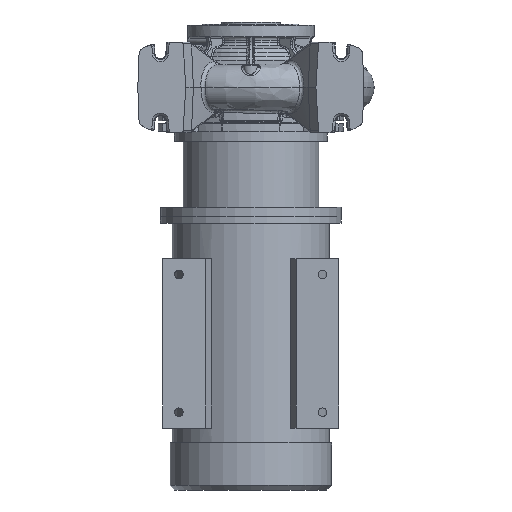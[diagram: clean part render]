
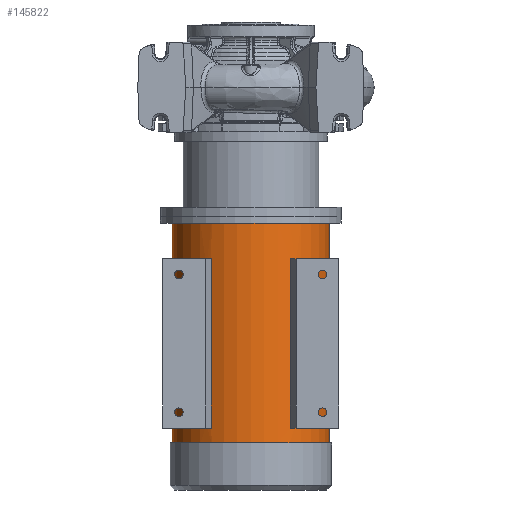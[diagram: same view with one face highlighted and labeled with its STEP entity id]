
A CAD part, front view. The second image highlights one B-rep face of the part: STEP entity #145822.
In plain terms, the highlighted cylindrical face has radius 173.5 mm (diameter 347 mm), a partial arc.
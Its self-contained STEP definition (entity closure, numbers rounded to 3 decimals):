
#1138 = EDGE_CURVE ( 'NONE', #72660, #162850, #74193, .T. ) ;
#1972 = VERTEX_POINT ( 'NONE', #120261 ) ;
#3226 = CIRCLE ( 'NONE', #144988, 173.5 ) ;
#6081 = DIRECTION ( 'NONE',  ( 0., 0., -1. ) ) ;
#6088 = CIRCLE ( 'NONE', #62175, 173.5 ) ;
#6700 = VERTEX_POINT ( 'NONE', #97734 ) ;
#7534 = VECTOR ( 'NONE', #68299, 1000. ) ;
#7914 = FACE_OUTER_BOUND ( 'NONE', #103871, .T. ) ;
#9203 = ORIENTED_EDGE ( 'NONE', *, *, #104964, .F. ) ;
#9221 = AXIS2_PLACEMENT_3D ( 'NONE', #19971, #32660, #116432 ) ;
#15252 = AXIS2_PLACEMENT_3D ( 'NONE', #77410, #105171, #127426 ) ;
#17220 = EDGE_CURVE ( 'NONE', #6700, #162850, #22133, .T. ) ;
#19183 = CIRCLE ( 'NONE', #32291, 173.5 ) ;
#19971 = CARTESIAN_POINT ( 'NONE',  ( 0., 0., -378.8 ) ) ;
#22133 = CIRCLE ( 'NONE', #15252, 173.5 ) ;
#22889 = ORIENTED_EDGE ( 'NONE', *, *, #17220, .F. ) ;
#23559 = CARTESIAN_POINT ( 'NONE',  ( -87.271, -149.953, -378.8 ) ) ;
#24618 = EDGE_CURVE ( 'NONE', #66542, #101963, #39864, .T. ) ;
#24659 = AXIS2_PLACEMENT_3D ( 'NONE', #102221, #101623, #103997 ) ;
#28593 = ORIENTED_EDGE ( 'NONE', *, *, #66082, .T. ) ;
#28682 = DIRECTION ( 'NONE',  ( 0., 0., -1. ) ) ;
#32069 = ORIENTED_EDGE ( 'NONE', *, *, #97810, .T. ) ;
#32170 = LINE ( 'NONE', #44229, #92630 ) ;
#32291 = AXIS2_PLACEMENT_3D ( 'NONE', #52496, #153714, #84455 ) ;
#32653 = DIRECTION ( 'NONE',  ( -1., 0., 0. ) ) ;
#32660 = DIRECTION ( 'NONE',  ( 0., 0., 1. ) ) ;
#34721 = DIRECTION ( 'NONE',  ( 0., 0., 1. ) ) ;
#39864 = LINE ( 'NONE', #135957, #69968 ) ;
#41528 = LINE ( 'NONE', #178827, #123787 ) ;
#41603 = VERTEX_POINT ( 'NONE', #114376 ) ;
#44229 = CARTESIAN_POINT ( 'NONE',  ( 173.5, 0., -890.8 ) ) ;
#45170 = EDGE_CURVE ( 'NONE', #99168, #6700, #32170, .T. ) ;
#49958 = VERTEX_POINT ( 'NONE', #117822 ) ;
#50993 = CYLINDRICAL_SURFACE ( 'NONE', #24659, 173.5 ) ;
#52496 = CARTESIAN_POINT ( 'NONE',  ( 0., 0., -378.8 ) ) ;
#57851 = DIRECTION ( 'NONE',  ( 0., 0., -1. ) ) ;
#58104 = DIRECTION ( 'NONE',  ( 0., 0., -1. ) ) ;
#59865 = EDGE_LOOP ( 'NONE', ( #95047, #28593, #32069, #173492 ) ) ;
#61519 = CARTESIAN_POINT ( 'NONE',  ( 0., 0., -300.8 ) ) ;
#62175 = AXIS2_PLACEMENT_3D ( 'NONE', #82404, #28682, #112450 ) ;
#62201 = VECTOR ( 'NONE', #34721, 1000. ) ;
#66082 = EDGE_CURVE ( 'NONE', #41603, #162715, #136997, .T. ) ;
#66542 = VERTEX_POINT ( 'NONE', #147083 ) ;
#68299 = DIRECTION ( 'NONE',  ( 0., 0., 1. ) ) ;
#69619 = CARTESIAN_POINT ( 'NONE',  ( 0., 0., -753.8 ) ) ;
#69968 = VECTOR ( 'NONE', #57851, 1000. ) ;
#70763 = DIRECTION ( 'NONE',  ( -1., 0., 0. ) ) ;
#71788 = CARTESIAN_POINT ( 'NONE',  ( -173.5, 0., -300.8 ) ) ;
#72446 = CIRCLE ( 'NONE', #9221, 173.5 ) ;
#72660 = VERTEX_POINT ( 'NONE', #71788 ) ;
#74193 = LINE ( 'NONE', #177471, #164918 ) ;
#77410 = CARTESIAN_POINT ( 'NONE',  ( 0., 0., -786.8 ) ) ;
#77469 = EDGE_CURVE ( 'NONE', #149508, #139252, #19183, .T. ) ;
#81194 = CARTESIAN_POINT ( 'NONE',  ( -100.73, -141.265, -378.8 ) ) ;
#81376 = FACE_BOUND ( 'NONE', #59865, .T. ) ;
#82404 = CARTESIAN_POINT ( 'NONE',  ( 0., 0., -753.8 ) ) ;
#82459 = ORIENTED_EDGE ( 'NONE', *, *, #109223, .F. ) ;
#84455 = DIRECTION ( 'NONE',  ( 1., 0., 0. ) ) ;
#90887 = CARTESIAN_POINT ( 'NONE',  ( 173.5, 0., -300.8 ) ) ;
#92602 = ORIENTED_EDGE ( 'NONE', *, *, #148878, .T. ) ;
#92630 = VECTOR ( 'NONE', #58104, 1000. ) ;
#94692 = LINE ( 'NONE', #117918, #62201 ) ;
#95047 = ORIENTED_EDGE ( 'NONE', *, *, #111294, .F. ) ;
#97734 = CARTESIAN_POINT ( 'NONE',  ( 173.5, 0., -786.8 ) ) ;
#97810 = EDGE_CURVE ( 'NONE', #162715, #66542, #72446, .T. ) ;
#99168 = VERTEX_POINT ( 'NONE', #90887 ) ;
#101020 = ORIENTED_EDGE ( 'NONE', *, *, #45170, .F. ) ;
#101623 = DIRECTION ( 'NONE',  ( 0., 0., -1. ) ) ;
#101963 = VERTEX_POINT ( 'NONE', #161065 ) ;
#102221 = CARTESIAN_POINT ( 'NONE',  ( 0., 0., -890.8 ) ) ;
#103871 = EDGE_LOOP ( 'NONE', ( #101020, #92602, #110586, #22889 ) ) ;
#103997 = DIRECTION ( 'NONE',  ( -1., 0., 0. ) ) ;
#104964 = EDGE_CURVE ( 'NONE', #139252, #49958, #41528, .T. ) ;
#105171 = DIRECTION ( 'NONE',  ( 0., 0., -1. ) ) ;
#105831 = DIRECTION ( 'NONE',  ( 0., 0., -1. ) ) ;
#109223 = EDGE_CURVE ( 'NONE', #1972, #149508, #94692, .T. ) ;
#110586 = ORIENTED_EDGE ( 'NONE', *, *, #1138, .T. ) ;
#111294 = EDGE_CURVE ( 'NONE', #41603, #101963, #163008, .T. ) ;
#112450 = DIRECTION ( 'NONE',  ( 1., 0., 0. ) ) ;
#114376 = CARTESIAN_POINT ( 'NONE',  ( 87.271, -149.953, -753.8 ) ) ;
#116205 = EDGE_LOOP ( 'NONE', ( #82459, #177367, #9203, #119111 ) ) ;
#116432 = DIRECTION ( 'NONE',  ( -1., 0., 0. ) ) ;
#117822 = CARTESIAN_POINT ( 'NONE',  ( -100.73, -141.265, -753.8 ) ) ;
#117918 = CARTESIAN_POINT ( 'NONE',  ( -87.271, -149.953, -890.8 ) ) ;
#119111 = ORIENTED_EDGE ( 'NONE', *, *, #77469, .F. ) ;
#120261 = CARTESIAN_POINT ( 'NONE',  ( -87.271, -149.953, -753.8 ) ) ;
#122554 = CARTESIAN_POINT ( 'NONE',  ( 87.271, -149.953, -378.8 ) ) ;
#123787 = VECTOR ( 'NONE', #138985, 1000. ) ;
#124378 = CARTESIAN_POINT ( 'NONE',  ( 87.271, -149.953, -890.8 ) ) ;
#126264 = DIRECTION ( 'NONE',  ( 0., 0., 1. ) ) ;
#127279 = AXIS2_PLACEMENT_3D ( 'NONE', #69619, #126264, #70763 ) ;
#127426 = DIRECTION ( 'NONE',  ( -1., 0., 0. ) ) ;
#135957 = CARTESIAN_POINT ( 'NONE',  ( 100.73, -141.265, -890.8 ) ) ;
#136997 = LINE ( 'NONE', #124378, #7534 ) ;
#138137 = CARTESIAN_POINT ( 'NONE',  ( -173.5, 0., -786.8 ) ) ;
#138985 = DIRECTION ( 'NONE',  ( 0., 0., -1. ) ) ;
#139252 = VERTEX_POINT ( 'NONE', #81194 ) ;
#141625 = FACE_BOUND ( 'NONE', #116205, .T. ) ;
#144988 = AXIS2_PLACEMENT_3D ( 'NONE', #61519, #6081, #32653 ) ;
#145822 = ADVANCED_FACE ( 'NONE', ( #7914, #81376, #141625 ), #50993, .T. ) ;
#147083 = CARTESIAN_POINT ( 'NONE',  ( 100.73, -141.265, -378.8 ) ) ;
#148878 = EDGE_CURVE ( 'NONE', #99168, #72660, #3226, .T. ) ;
#149508 = VERTEX_POINT ( 'NONE', #23559 ) ;
#153714 = DIRECTION ( 'NONE',  ( 0., 0., -1. ) ) ;
#161065 = CARTESIAN_POINT ( 'NONE',  ( 100.73, -141.265, -753.8 ) ) ;
#162715 = VERTEX_POINT ( 'NONE', #122554 ) ;
#162850 = VERTEX_POINT ( 'NONE', #138137 ) ;
#163008 = CIRCLE ( 'NONE', #127279, 173.5 ) ;
#164851 = EDGE_CURVE ( 'NONE', #1972, #49958, #6088, .T. ) ;
#164918 = VECTOR ( 'NONE', #105831, 1000. ) ;
#173492 = ORIENTED_EDGE ( 'NONE', *, *, #24618, .T. ) ;
#177367 = ORIENTED_EDGE ( 'NONE', *, *, #164851, .T. ) ;
#177471 = CARTESIAN_POINT ( 'NONE',  ( -173.5, 0., -890.8 ) ) ;
#178827 = CARTESIAN_POINT ( 'NONE',  ( -100.73, -141.265, -890.8 ) ) ;
